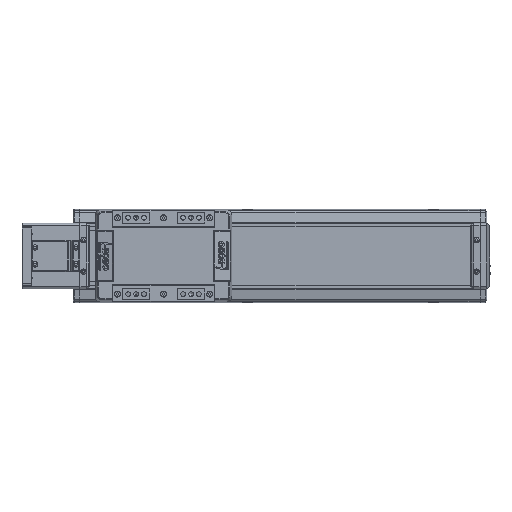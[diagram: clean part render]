
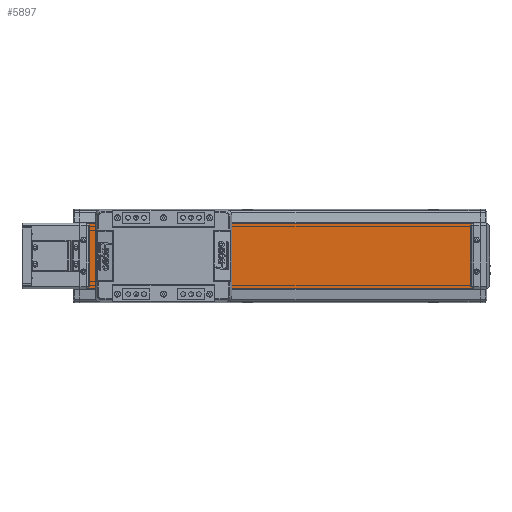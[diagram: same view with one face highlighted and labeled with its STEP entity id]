
A CAD part, top view. The second image highlights one B-rep face of the part: STEP entity #5897.
In plain terms, the highlighted planar face has unit normal (0, 0, 1).
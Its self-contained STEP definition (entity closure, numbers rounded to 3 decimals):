
#5897=ADVANCED_FACE('',(#12621),#12622,.T.);
#12621=FACE_OUTER_BOUND('',#20924,.T.);
#12622=PLANE('',#20925);
#20924=EDGE_LOOP('',(#37971,#37972,#37973,#37974));
#20925=AXIS2_PLACEMENT_3D('',#37975,#37976,#37977);
#37971=ORIENTED_EDGE('',*,*,#52355,.T.);
#37972=ORIENTED_EDGE('',*,*,#52356,.F.);
#37973=ORIENTED_EDGE('',*,*,#48506,.T.);
#37974=ORIENTED_EDGE('',*,*,#52357,.T.);
#37975=CARTESIAN_POINT('',(-580.,0.,20.15));
#37976=DIRECTION('',(0.,0.,1.0));
#37977=DIRECTION('',(0.,-1.0,0.));
#48506=EDGE_CURVE('',#59321,#59319,#59322,.T.);
#52355=EDGE_CURVE('',#64765,#64766,#64767,.T.);
#52356=EDGE_CURVE('',#59321,#64766,#64768,.T.);
#52357=EDGE_CURVE('',#59319,#64765,#64769,.T.);
#59319=VERTEX_POINT('',#73945);
#59321=VERTEX_POINT('',#73948);
#59322=LINE('',#73949,#73950);
#64765=VERTEX_POINT('',#81911);
#64766=VERTEX_POINT('',#81912);
#64767=LINE('',#81913,#81914);
#64768=LINE('',#81915,#81916);
#64769=LINE('',#81917,#81918);
#73945=CARTESIAN_POINT('',(-580.,-35.,20.15));
#73948=CARTESIAN_POINT('',(-580.,35.,20.15));
#73949=CARTESIAN_POINT('',(-580.,35.,20.15));
#73950=VECTOR('',#88927,10.0);
#81911=CARTESIAN_POINT('',(-150.,-35.,20.15));
#81912=CARTESIAN_POINT('',(-150.,35.,20.15));
#81913=CARTESIAN_POINT('',(-150.,35.,20.15));
#81914=VECTOR('',#93946,10.0);
#81915=CARTESIAN_POINT('',(-580.,35.,20.15));
#81916=VECTOR('',#93947,10.0);
#81917=CARTESIAN_POINT('',(-580.,-35.,20.15));
#81918=VECTOR('',#93948,10.0);
#88927=DIRECTION('',(0.,-1.0,0.));
#93946=DIRECTION('',(0.,1.0,0.));
#93947=DIRECTION('',(1.0,0.,0.));
#93948=DIRECTION('',(1.0,0.,0.));
